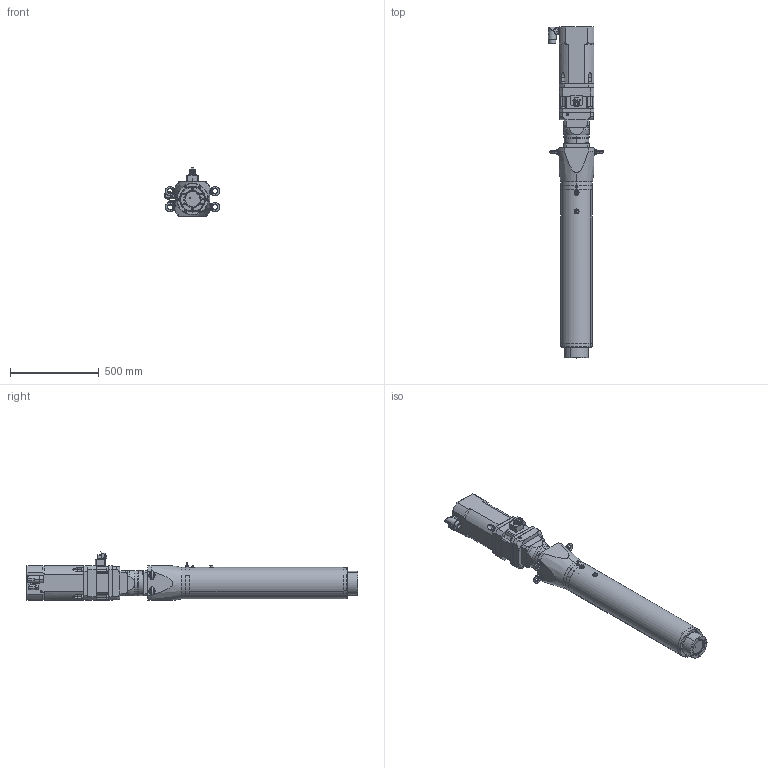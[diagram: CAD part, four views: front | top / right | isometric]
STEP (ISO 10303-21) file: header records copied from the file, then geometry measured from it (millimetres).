
FILE_DESCRIPTION (( 'STEP AP203' ), '1' );
FILE_NAME ('LN5I1000-055-020SG.STEP', '2019-01-31T11:52:59', ( '' ), ( '' ), 'SwSTEP 2.0', 'SolidWorks 2016', '' );
FILE_SCHEMA (( 'CONFIG_CONTROL_DESIGN' ));
Products named in the file (1): LN5I1000-055-020SG
Bounding box: 313 x 1875.5 x 275.89 mm (x, y, z)
Volume: 41205608.3 mm3; surface area: 2927147.8 mm2
Topology: 49 solids, 49 shells, 3406 faces, 8610 edges, 5497 vertices
Faces by surface type: plane 2425, cylinder 572, cone 231, torus 102, bspline 74, sphere 2
Entity records: 106234 total; most frequent: CARTESIAN_POINT 24379, ORIENTED_EDGE 16896, DIRECTION 16410, EDGE_CURVE 8448, VECTOR 6650, LINE 6650, VERTEX_POINT 5497, AXIS2_PLACEMENT_3D 4880
